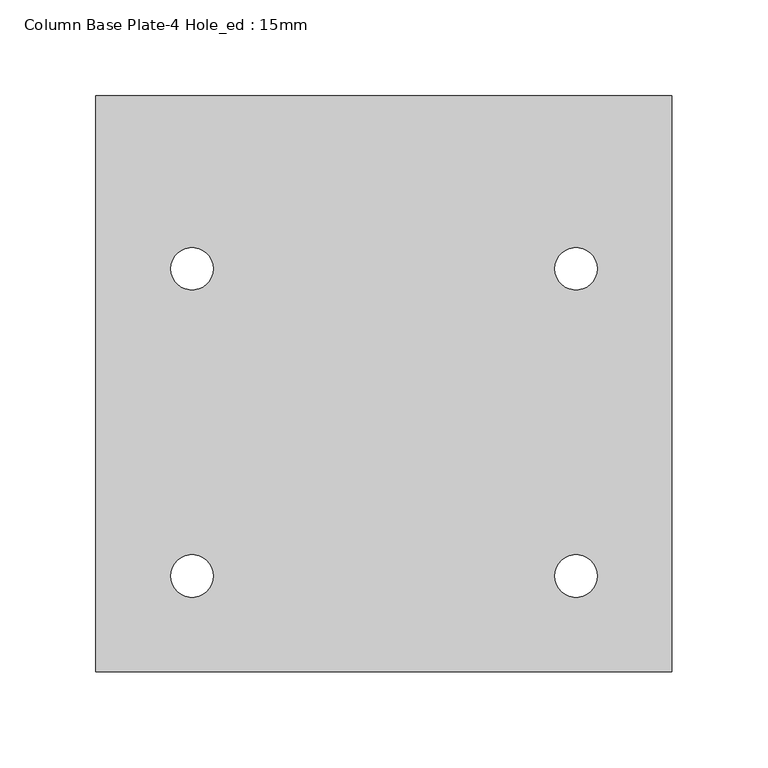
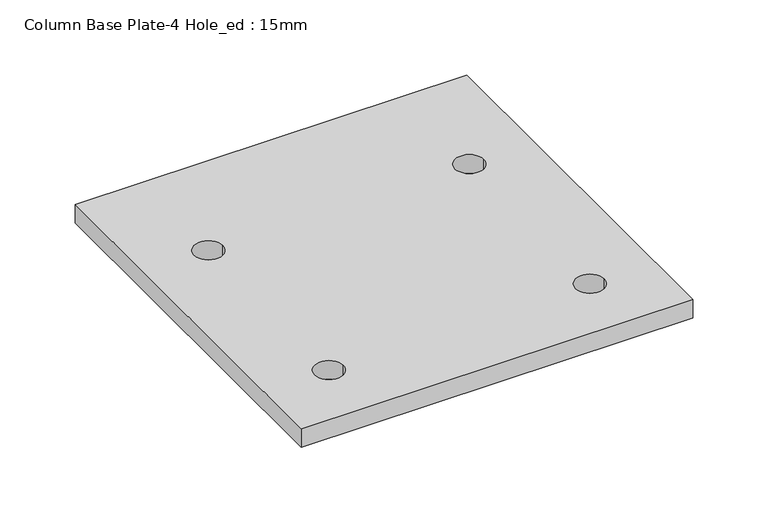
"""IFC4 building model written with IfcOpenShell, lengths in millimetres: fastener geometry, Column Base Plate-4 Hole_ed : 15mm."""

import ifcopenshell
import ifcopenshell.guid

model = None  # the IFC model being written
_history = None  # IfcOwnerHistory: only IFC2X3 demands one
_inside = {}  # id of a spatial element -> (the spatial element, [elements in it])
_under = {}  # id of a project, library or spatial element -> (it, [spatial elements below it])
_declared = {}  # id of a project -> (the project, [libraries it declares])
_typed = {}  # id of a type object -> (the type object, [elements of that type])
_made_of = {}  # id of a material, layer set ... -> (it, [elements and type objects made of it])


def new_model(schema):
    """Start an empty IFC model of exactly this schema.

    Asked for "IFC4X3", IfcOpenShell would pick the latest addendum, in which some entities
    have other attributes; the version numbers below select the first issue.
    IFC2X3 requires an IfcOwnerHistory on every rooted entity: one is made here for all.
    """
    global model, _history
    if schema == "IFC4X3":
        model = ifcopenshell.file(schema_version=(4, 3, 0, 0))
    else:
        model = ifcopenshell.file(schema=schema)
    _inside.clear()
    _under.clear()
    _declared.clear()
    _typed.clear()
    _made_of.clear()
    _history = None
    if model.schema == "IFC2X3":
        org = make("IfcOrganization", Name="unknown")
        user = make(
            "IfcPersonAndOrganization",
            ThePerson=make("IfcPerson", FamilyName="unknown"),
            TheOrganization=org,
        )
        app = make(
            "IfcApplication",
            ApplicationDeveloper=org,
            Version="unknown",
            ApplicationFullName="unknown",
            ApplicationIdentifier="unknown",
        )
        _history = make(
            "IfcOwnerHistory",
            OwningUser=user,
            OwningApplication=app,
            ChangeAction="ADDED",
            CreationDate=0,
        )
    return model


def make(cls, **values):
    """One entity of the class cls with the attributes given. An attribute that is None is left unset."""
    return model.create_entity(
        cls, **{name: value for name, value in values.items() if value is not None}
    )


def rooted(cls, **values):
    """An entity with a GlobalId (a new one), such as an element, a storey or a relation."""
    return make(cls, GlobalId=ifcopenshell.guid.new(), OwnerHistory=_history, **values)


def si_unit(unit_type, name, prefix=None):
    """IfcSIUnit, for example si_unit("LENGTHUNIT", "METRE", prefix="MILLI")."""
    return make("IfcSIUnit", UnitType=unit_type, Prefix=prefix, Name=name)


def assignment(units):
    """IfcUnitAssignment: the units of a project."""
    return None if units is None else make("IfcUnitAssignment", Units=units)


def point(xyz):
    """IfcCartesianPoint."""
    return None if xyz is None else make("IfcCartesianPoint", Coordinates=xyz)


def direction(xyz):
    """IfcDirection."""
    return None if xyz is None else make("IfcDirection", DirectionRatios=xyz)


def frame(location, z_axis=None, x_axis=None):
    """IfcAxis2Placement3D, a coordinate frame: its origin and axes. An axis left out is left unset."""
    return make(
        "IfcAxis2Placement3D",
        Location=point(location),
        Axis=direction(z_axis),
        RefDirection=direction(x_axis),
    )


def frame_2d(location, x_axis=None):
    """IfcAxis2Placement2D, a coordinate frame in the plane: its origin and x axis."""
    return make(
        "IfcAxis2Placement2D", Location=point(location), RefDirection=direction(x_axis)
    )


def origin():
    """The frame at (0, 0, 0) with its axes left unset."""
    return frame((0.0, 0.0, 0.0))


def origin_with_axes():
    """The frame at (0, 0, 0) with the z axis (0, 0, 1) and the x axis (1, 0, 0) written out."""
    return frame((0.0, 0.0, 0.0), z_axis=(0.0, 0.0, 1.0), x_axis=(1.0, 0.0, 0.0))


def place(relative_to, where):
    """IfcLocalPlacement: puts the frame where relative to a parent placement (None: the world)."""
    return make(
        "IfcLocalPlacement", PlacementRelTo=relative_to, RelativePlacement=where
    )


def context(
    kind, dimensions, precision=None, world=None, true_north=None, identifier=None
):
    """IfcGeometricRepresentationContext, for example the 3D "Model" context."""
    return make(
        "IfcGeometricRepresentationContext",
        ContextIdentifier=identifier,
        ContextType=kind,
        CoordinateSpaceDimension=dimensions,
        Precision=precision,
        WorldCoordinateSystem=world,
        TrueNorth=true_north,
    )


def project(units=None, contexts=None):
    """IfcProject with its units and contexts."""
    return rooted(
        "IfcProject",
        Name="project",
        RepresentationContexts=contexts,
        UnitsInContext=assignment(units),
    )


def spatial(cls, under=None, at=None, **own):
    """A site, building, storey or space (cls), placed at a placement, below another one or the project."""
    s = rooted(cls, ObjectPlacement=at, **own)
    if under is not None:
        _under.setdefault(under.id(), (under, []))[1].append(s)
    return s


def polyline(points):
    """IfcPolyline through the points."""
    return make("IfcPolyline", Points=[point(p) for p in points])


def circle_curve(where, radius):
    """IfcCircle in the frame where."""
    return make("IfcCircle", Position=where, Radius=radius)


def trimmed(basis, trim1, trim2, sense, master):
    """IfcTrimmedCurve: the piece of a basis curve between two trims."""
    return make(
        "IfcTrimmedCurve",
        BasisCurve=basis,
        Trim1=trim1,
        Trim2=trim2,
        SenseAgreement=sense,
        MasterRepresentation=master,
    )


def segment(curve, same_sense, transition):
    """IfcCompositeCurveSegment."""
    return make(
        "IfcCompositeCurveSegment",
        Transition=transition,
        SameSense=same_sense,
        ParentCurve=curve,
    )


def composite_curve(segments, self_intersect=None):
    """IfcCompositeCurve: segments joined end to end."""
    return make("IfcCompositeCurve", Segments=segments, SelfIntersect=self_intersect)


def outline(outer, holes=None, kind="AREA"):
    """IfcArbitraryClosedProfileDef: a profile drawn as a closed curve; with holes, ...WithVoids."""
    if holes is None:
        return make("IfcArbitraryClosedProfileDef", ProfileType=kind, OuterCurve=outer)
    return make(
        "IfcArbitraryProfileDefWithVoids",
        ProfileType=kind,
        OuterCurve=outer,
        InnerCurves=holes,
    )


def extrude(swept, where, along, depth):
    """IfcExtrudedAreaSolid: the profile swept, set in the frame where, extruded along a direction by depth."""
    return make(
        "IfcExtrudedAreaSolid",
        SweptArea=swept,
        Position=where,
        ExtrudedDirection=direction(along),
        Depth=depth,
    )


def shape(context_of_items, identifier, shape_type, items):
    """IfcShapeRepresentation: the items that make up one representation, for example the "Body"."""
    return make(
        "IfcShapeRepresentation",
        ContextOfItems=context_of_items,
        RepresentationIdentifier=identifier,
        RepresentationType=shape_type,
        Items=items,
    )


def source(mapping_origin, context_of_items, identifier, shape_type, items):
    """IfcRepresentationMap: a shape defined once, which mapped items show again and again."""
    return make(
        "IfcRepresentationMap",
        MappingOrigin=mapping_origin,
        MappedRepresentation=shape(context_of_items, identifier, shape_type, items),
    )


def transform(
    local_origin,
    x_axis=None,
    y_axis=None,
    z_axis=None,
    scale=None,
    scale2=None,
    scale3=None,
    uniform=True,
):
    """IfcCartesianTransformationOperator3D, or its non-uniform kind. x_axis, y_axis, z_axis: its Axis1, 2, 3."""
    if uniform:
        return make(
            "IfcCartesianTransformationOperator3D",
            Axis1=direction(x_axis),
            Axis2=direction(y_axis),
            LocalOrigin=point(local_origin),
            Scale=scale,
            Axis3=direction(z_axis),
        )
    return make(
        "IfcCartesianTransformationOperator3DnonUniform",
        Axis1=direction(x_axis),
        Axis2=direction(y_axis),
        LocalOrigin=point(local_origin),
        Scale=scale,
        Axis3=direction(z_axis),
        Scale2=scale2,
        Scale3=scale3,
    )


def mapped(mapping_source, mapping_target):
    """IfcMappedItem: shows the shape of a source again, moved by a transform."""
    return make(
        "IfcMappedItem", MappingSource=mapping_source, MappingTarget=mapping_target
    )


def made_of(thing, what):
    """Note that an element or type object is made of a material, layer set ...; save() writes the relation."""
    if what is not None:
        _made_of.setdefault(what.id(), (what, []))[1].append(thing)
    return thing


def element(
    cls,
    number,
    at=None,
    inside=None,
    cuts=None,
    type_object=None,
    material=None,
    context=None,
    identifier="Body",
    shape_type=None,
    held_by="IfcProductDefinitionShape",
    body=None,
    shapes=None,
    **own,
):
    """One element of the class cls, such as IfcWall. Its Tag is "e" and its number.

    at: its placement. inside: the storey or other place that contains it. cuts: it is an
    opening in that element (IfcRelVoidsElement). A single representation is given by context,
    identifier, shape_type and body (its items); several are given by shapes. held_by: the class
    of the entity that holds the representations. save() writes the other relations.
    """
    e = rooted(cls, Tag="e%d" % number, ObjectPlacement=at, **own)
    if body is not None:
        shapes = [shape(context, identifier, shape_type, body)]
    if shapes is not None:
        e.Representation = make(held_by, Representations=shapes)
    if inside is not None:
        _inside.setdefault(inside.id(), (inside, []))[1].append(e)
    if cuts is not None:
        rooted(
            "IfcRelVoidsElement", RelatingBuildingElement=cuts, RelatedOpeningElement=e
        )
    if type_object is not None:
        _typed.setdefault(type_object.id(), (type_object, []))[1].append(e)
    return made_of(e, material)


def aggregate(whole, parts):
    """IfcRelAggregates: a whole, such as a stair, and the parts it consists of."""
    return rooted("IfcRelAggregates", RelatingObject=whole, RelatedObjects=parts)


def save(model, path):
    """Write the relations noted so far, then the file.

    IfcRelAggregates (storeys below a building ...), IfcRelContainedInSpatialStructure (elements
    in a storey), IfcRelDefinesByType, IfcRelAssociatesMaterial and IfcRelDeclares: one each for
    every whole, place, type object, material and project.
    """
    for whole, parts in _under.values():
        aggregate(whole, parts)
    for where, things in _inside.values():
        rooted(
            "IfcRelContainedInSpatialStructure",
            RelatedElements=things,
            RelatingStructure=where,
        )
    for kind, things in _typed.values():
        rooted("IfcRelDefinesByType", RelatedObjects=things, RelatingType=kind)
    for what, things in _made_of.values():
        rooted("IfcRelAssociatesMaterial", RelatedObjects=things, RelatingMaterial=what)
    for by, libraries in _declared.values():
        rooted("IfcRelDeclares", RelatingContext=by, RelatedDefinitions=libraries)
    model.write(path)


def column_base_plate_4_hole_ed_15mm_62b327aa(model_context):
    return source(origin(), model_context, "Body", "SweptSolid", [
        extrude(outline(polyline([(150.0, 150.0), (150.0, -150.0), (-150.0, -150.0), (-150.0, 150.0), (150.0, 150.0)]), holes=[composite_curve([segment(trimmed(circle_curve(frame_2d((-100.0, 60.0)), 11.0), [point((-111.0, 60.0))], [point((-89.0, 60.0))], True, "CARTESIAN"), True, "CONTINUOUS"), segment(trimmed(circle_curve(frame_2d((-100.0, 60.0)), 11.0), [point((-89.0, 60.0))], [point((-111.0, 60.0))], True, "CARTESIAN"), True, "CONTINUOUS")], self_intersect=False), composite_curve([segment(trimmed(circle_curve(frame_2d((100.0, 60.0)), 11.0), [point((89.0, 60.0))], [point((111.0, 60.0))], True, "CARTESIAN"), True, "CONTINUOUS"), segment(trimmed(circle_curve(frame_2d((100.0, 60.0)), 11.0), [point((111.0, 60.0))], [point((89.0, 60.0))], True, "CARTESIAN"), True, "CONTINUOUS")], self_intersect=False), composite_curve([segment(trimmed(circle_curve(frame_2d((-100.0, -100.0)), 11.0), [point((-111.0, -100.0))], [point((-89.0, -100.0))], True, "CARTESIAN"), True, "CONTINUOUS"), segment(trimmed(circle_curve(frame_2d((-100.0, -100.0)), 11.0), [point((-89.0, -100.0))], [point((-111.0, -100.0))], True, "CARTESIAN"), True, "CONTINUOUS")], self_intersect=False), composite_curve([segment(trimmed(circle_curve(frame_2d((100.0, -100.0)), 11.0), [point((89.0, -100.0))], [point((111.0, -100.0))], True, "CARTESIAN"), True, "CONTINUOUS"), segment(trimmed(circle_curve(frame_2d((100.0, -100.0)), 11.0), [point((111.0, -100.0))], [point((89.0, -100.0))], True, "CARTESIAN"), True, "CONTINUOUS")], self_intersect=False)]), origin_with_axes(), (0.0, 0.0, 1.0), 15.0),
    ])


if __name__ == "__main__":
    model = new_model("IFC4")
    model_context = context("Model", 3, world=origin())
    ifc_project = project(units=[si_unit("LENGTHUNIT", "METRE", prefix="MILLI")], contexts=[model_context])
    site = spatial("IfcSite", under=ifc_project)
    building = spatial("IfcBuilding", under=site)
    placement = place(None, origin())
    column_base_plate_4_hole_ed_15mm_shape = column_base_plate_4_hole_ed_15mm_62b327aa(model_context)
    element("IfcFastener", 1, ObjectType="Column Base Plate-4 Hole_ed : 15mm", at=placement, inside=building, context=model_context, shape_type="MappedRepresentation", body=[
        mapped(column_base_plate_4_hole_ed_15mm_shape, transform((0.0, 0.0, 0.0), x_axis=(1.0, 0.0, 0.0), y_axis=(0.0, 1.0, 0.0), z_axis=(0.0, 0.0, 1.0))),
    ])
    save(model, "model.ifc")
